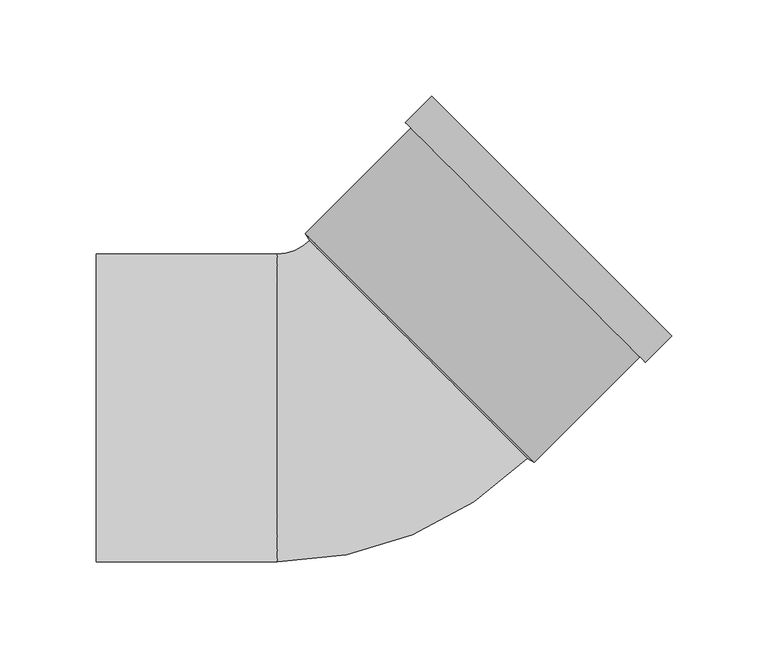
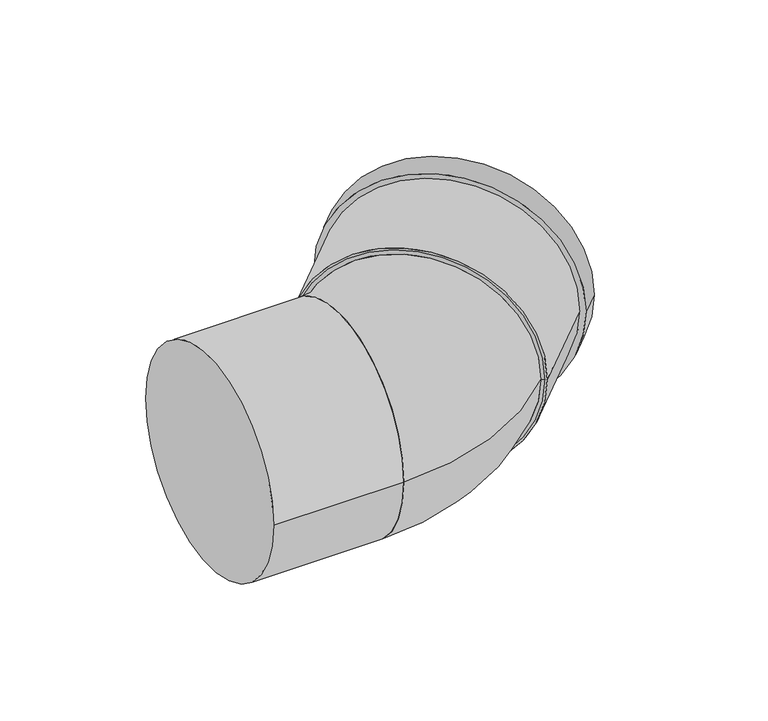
"""IFC4 building model written with IfcOpenShell, lengths in millimetres: pipe fitting geometry, Superdrain SKB Bend : Superdrain SKB Bend."""

from ifc_helpers import new_model, si_unit, point, frame, origin, origin_2d, place, context, project, spatial, polyline, circle_curve, ellipse_curve, trimmed, segment, composite_curve, outline, extrude, source, transform, mapped, element, save
from ifc_brep_helpers import plane_surface, revolved_surface, advanced_brep


def pipe_fitting_66c96be0(model_context):
    return source(origin(), model_context, "Body", "SolidModel", [
        advanced_brep(
        [(86.9741341, -26.1629509, 0.0), (-26.1629509, 86.9741341, 0.0), (-43.0, -80.0, 0.0), (-43.0, 80.0, 0.0)],
        [
            (0, 1, circle_curve(frame((30.4055916, 30.4055916, 0.0), z_axis=(0.7071067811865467, 0.7071067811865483, 0.0), x_axis=(-0.7071067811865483, 0.7071067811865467, 0.0)), 80.0)),
            (1, 0, circle_curve(frame((30.4055916, 30.4055916, 0.0), z_axis=(0.7071067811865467, 0.7071067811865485, 0.0), x_axis=(-0.7071067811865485, 0.7071067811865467, 0.0)), 80.0)),
            (2, 3, circle_curve(frame((-43.0, 0.0, 0.0), z_axis=(-1.0, 0.0, 0.0), x_axis=(0.0, 1.0, 0.0)), 80.0)),
            (3, 2, circle_curve(frame((-43.0, 0.0, 0.0), z_axis=(-1.0, 0.0, 0.0), x_axis=(0.0, 1.0, 0.0)), 80.0)),
            (3, 1, circle_curve(frame((-43.0, 103.8111832, 0.0), z_axis=(0.0, 0.0, 1.0), x_axis=(1.0, 0.0, 0.0)), 23.8111832)),
            (0, 2, circle_curve(frame((-43.0, 103.8111832, 0.0), z_axis=(0.0, 0.0, -1.0), x_axis=(1.0, 0.0, 0.0)), 183.8111832)),
        ],
        [
            plane_surface(frame((30.4055916, 30.4055916, 0.0), z_axis=(0.7071067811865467, 0.7071067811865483, 0.0), x_axis=(0.0, 0.0, -1.0))),
            plane_surface(frame((-43.0, 0.0, 0.0), z_axis=(-1.0, 0.0, 0.0), x_axis=(0.0, 0.0, -1.0))),
            revolved_surface(trimmed(ellipse_curve(frame((60.8111832, 103.8111832, 0.0), z_axis=(0.0, -1.0, 0.0), x_axis=(-1.0, 0.0, 0.0)), 80.0, 80.0), [point((-19.1888168, 103.8111832, 0.0))], [point((140.8111832, 103.8111832, 0.0))], True, "CARTESIAN"), (-43.0, 103.8111832, 0.0), (0.0, 0.0, 1.0)),
            revolved_surface(trimmed(ellipse_curve(frame((60.8111832, 103.8111832, 0.0), z_axis=(0.0, -1.0, 0.0), x_axis=(-1.0, 0.0, 0.0)), 80.0, 80.0), [point((140.8111832, 103.8111832, 0.0))], [point((-19.1888168, 103.8111832, 0.0))], True, "CARTESIAN"), (-43.0, 103.8111832, 0.0), (0.0, 0.0, 1.0)),
        ],
        [
            (0, [[1, 2]]),
            (1, [[3, 4]]),
            (2, [[-4, 5, -1, 6]]),
            (3, [[-3, -6, -2, -5]]),
        ],
    ),
        extrude(outline(composite_curve([segment(trimmed(circle_curve(origin_2d(), 84.0), [point((0.0, 84.0))], [point((0.0, -84.0))], False, "CARTESIAN"), True, "CONTINUOUS"), segment(trimmed(circle_curve(origin_2d(), 84.0), [point((0.0, -84.0))], [point((0.0, 84.0))], False, "CARTESIAN"), True, "CONTINUOUS")], self_intersect=False), holes=[composite_curve([segment(trimmed(circle_curve(origin_2d(), 80.0), [point((0.0, 80.0))], [point((0.0, -80.0))], True, "CARTESIAN"), True, "CONTINUOUS"), segment(trimmed(circle_curve(origin_2d(), 80.0), [point((0.0, -80.0))], [point((0.0, 80.0))], True, "CARTESIAN"), True, "CONTINUOUS")], self_intersect=False)]), frame((31.1126984, 31.1126984, 0.0), z_axis=(0.7071067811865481, 0.7071067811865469, 0.0), x_axis=(0.0, 0.0, 1.0)), (0.0, 0.0, 1.0), 97.0),
        extrude(outline(composite_curve([segment(trimmed(circle_curve(origin_2d(), 88.2), [point((0.0, -88.2))], [point((0.0, 88.2))], False, "CARTESIAN"), True, "CONTINUOUS"), segment(trimmed(circle_curve(origin_2d(), 88.2), [point((0.0, 88.2))], [point((0.0, -88.2))], False, "CARTESIAN"), True, "CONTINUOUS")], self_intersect=False), holes=[composite_curve([segment(trimmed(circle_curve(origin_2d(), 80.0), [point((0.0, -80.0))], [point((0.0, 80.0))], True, "CARTESIAN"), True, "CONTINUOUS"), segment(trimmed(circle_curve(origin_2d(), 80.0), [point((0.0, 80.0))], [point((0.0, -80.0))], True, "CARTESIAN"), True, "CONTINUOUS")], self_intersect=False)]), frame((85.9841846, 85.9841846, 0.0), z_axis=(0.7071067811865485, 0.7071067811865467, 0.0), x_axis=(0.0, 0.0, 1.0)), (0.0, 0.0, 1.0), 19.4),
        advanced_brep(
        [(90.509668, -28.2842712, 0.0), (-28.2842712, 90.509668, 0.0), (86.9741341, -26.1629509, 0.0), (-26.1629509, 86.9741341, 0.0)],
        [
            (0, 1, circle_curve(frame((31.1126984, 31.1126984, 0.0), z_axis=(0.7071067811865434, 0.7071067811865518, 0.0), x_axis=(0.7071067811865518, -0.7071067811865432, 0.0)), 84.0)),
            (1, 0, circle_curve(frame((31.1126984, 31.1126984, 0.0), z_axis=(0.7071067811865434, 0.7071067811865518, 0.0), x_axis=(-0.7071067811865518, 0.7071067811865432, 0.0)), 84.0)),
            (2, 3, circle_curve(frame((30.4055916, 30.4055916, 0.0), z_axis=(-0.7071067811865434, -0.7071067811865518, 0.0), x_axis=(-0.7071067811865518, 0.7071067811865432, 0.0)), 80.0)),
            (3, 2, circle_curve(frame((30.4055916, 30.4055916, 0.0), z_axis=(-0.7071067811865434, -0.7071067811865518, 0.0), x_axis=(0.7071067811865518, -0.7071067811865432, 0.0)), 80.0)),
            (3, 1),
            (0, 2),
        ],
        [
            plane_surface(frame((31.1126984, 31.1126984, 0.0), z_axis=(0.7071067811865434, 0.7071067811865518, 0.0), x_axis=(0.0, 0.0, -1.0))),
            plane_surface(frame((30.4055916, 30.4055916, 0.0), z_axis=(-0.7071067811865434, -0.7071067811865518, 0.0), x_axis=(0.0, 0.0, -1.0))),
            revolved_surface(polyline([(-26.16295079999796, 86.97413399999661, 0.0), (-28.284271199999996, 90.509668, 0.0)]), (16.263456, 16.263456, 0.0), (0.7071067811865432, 0.7071067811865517, 0.0)),
            revolved_surface(polyline([(86.97413399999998, -26.16295079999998, 0.0), (90.50966800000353, -28.284271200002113, 0.0)]), (16.263456, 16.263456, 0.0), (0.7071067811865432, 0.7071067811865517, 0.0)),
        ],
        [
            (0, [[1, 2]]),
            (1, [[3, 4]]),
            (2, [[-4, 5, -1, 6]]),
            (3, [[-3, -6, -2, -5]]),
        ],
    ),
        extrude(outline(composite_curve([segment(trimmed(circle_curve(origin_2d(), 80.0), [point((-80.0, 0.0))], [point((80.0, 0.0))], False, "CARTESIAN"), True, "CONTINUOUS"), segment(trimmed(circle_curve(origin_2d(), 80.0), [point((80.0, 0.0))], [point((-80.0, 0.0))], False, "CARTESIAN"), True, "CONTINUOUS")], self_intersect=False)), frame((-137.0, 0.0, 0.0), z_axis=(1.0, 0.0, 0.0), x_axis=(0.0, 1.0, 0.0)), (0.0, 0.0, 1.0), 94.0),
    ])


if __name__ == "__main__":
    model = new_model("IFC4")
    model_context = context("Model", 3, world=origin())
    ifc_project = project(units=[si_unit("LENGTHUNIT", "METRE", prefix="MILLI")], contexts=[model_context])
    site = spatial("IfcSite", under=ifc_project)
    building = spatial("IfcBuilding", under=site)
    placement = place(None, origin())
    pipe_fitting_shape = pipe_fitting_66c96be0(model_context)
    element("IfcPipeFitting", 1, ObjectType="Superdrain SKB Bend : Superdrain SKB Bend", at=placement, inside=building, context=model_context, shape_type="MappedRepresentation", body=[
        mapped(pipe_fitting_shape, transform((0.0, 0.0, 0.0), x_axis=(1.0, 0.0, 0.0), y_axis=(0.0, 1.0, 0.0), z_axis=(0.0, 0.0, 1.0))),
    ])
    save(model, "model.ifc")
